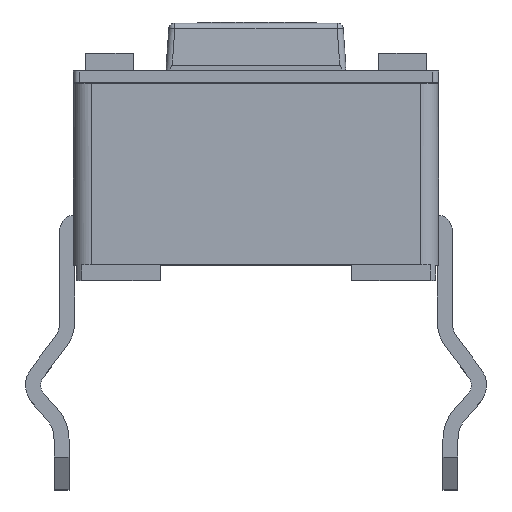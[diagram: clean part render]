
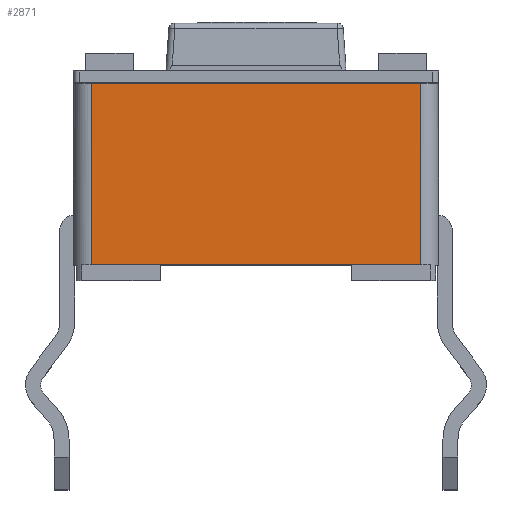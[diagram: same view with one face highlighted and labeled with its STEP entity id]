
A CAD part, top view. The second image highlights one B-rep face of the part: STEP entity #2871.
In plain terms, the highlighted planar face has unit normal (0, 0, 1).
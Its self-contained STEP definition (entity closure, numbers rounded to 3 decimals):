
#37=DIRECTION('',(-1.,0.,0.));
#38=VECTOR('',#37,5.5);
#39=CARTESIAN_POINT('',(2.75,0.26,1.75));
#40=LINE('',#39,#38);
#41=DIRECTION('',(0.,1.,0.));
#42=VECTOR('',#41,3.03);
#43=CARTESIAN_POINT('',(-2.75,0.26,1.75));
#44=LINE('',#43,#42);
#65=DIRECTION('',(-1.,0.,0.));
#66=VECTOR('',#65,5.5);
#67=CARTESIAN_POINT('',(2.75,3.29,1.75));
#68=LINE('',#67,#66);
#441=DIRECTION('',(0.,1.,0.));
#442=VECTOR('',#441,3.03);
#443=CARTESIAN_POINT('',(2.75,0.26,1.75));
#444=LINE('',#443,#442);
#2181=CARTESIAN_POINT('',(-2.75,0.26,1.75));
#2182=VERTEX_POINT('',#2181);
#2187=CARTESIAN_POINT('',(2.75,0.26,1.75));
#2188=VERTEX_POINT('',#2187);
#2189=CARTESIAN_POINT('',(-2.75,3.29,1.75));
#2190=VERTEX_POINT('',#2189);
#2191=CARTESIAN_POINT('',(2.75,3.29,1.75));
#2192=VERTEX_POINT('',#2191);
#2858=CARTESIAN_POINT('',(0.,1.775,1.75));
#2859=DIRECTION('',(0.,0.,1.));
#2860=DIRECTION('',(1.,0.,0.));
#2861=AXIS2_PLACEMENT_3D('',#2858,#2859,#2860);
#2862=PLANE('',#2861);
#2863=ORIENTED_EDGE('',*,*,#2849,.T.);
#2864=ORIENTED_EDGE('',*,*,#2839,.T.);
#2866=ORIENTED_EDGE('',*,*,#2865,.F.);
#2868=ORIENTED_EDGE('',*,*,#2867,.F.);
#2869=EDGE_LOOP('',(#2863,#2864,#2866,#2868));
#2870=FACE_OUTER_BOUND('',#2869,.F.);
#2839=EDGE_CURVE('',#2182,#2190,#44,.T.);
#2849=EDGE_CURVE('',#2188,#2182,#40,.T.);
#2865=EDGE_CURVE('',#2192,#2190,#68,.T.);
#2867=EDGE_CURVE('',#2188,#2192,#444,.T.);
#2871=ADVANCED_FACE('',(#2870),#2862,.T.);
